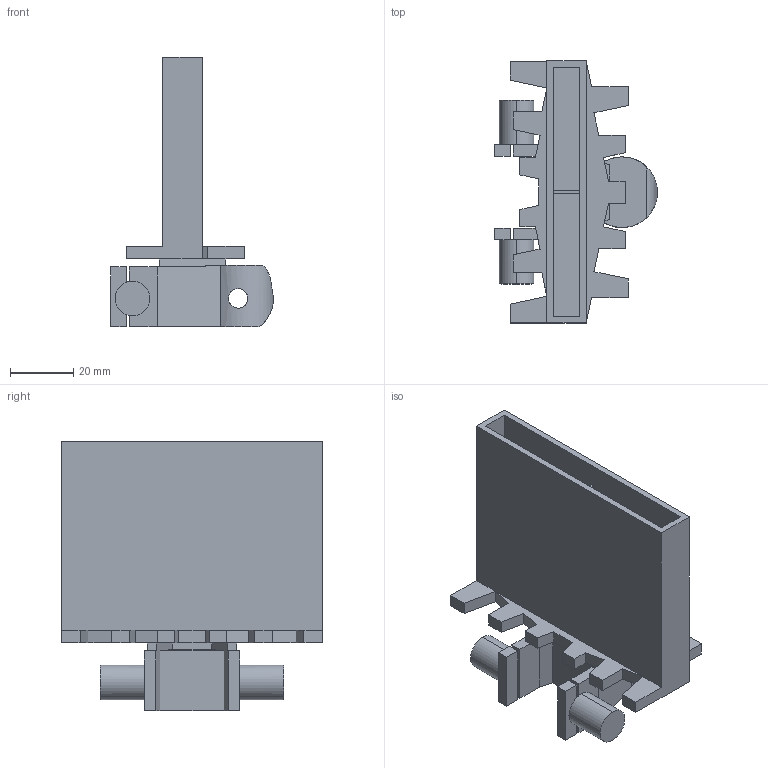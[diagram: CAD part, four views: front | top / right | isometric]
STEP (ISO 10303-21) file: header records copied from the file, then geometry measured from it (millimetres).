
FILE_DESCRIPTION (( 'STEP AP214' ), '1' );
FILE_NAME ('FMCT 5D60.step', '2017-04-04T13:34:27', ( '' ), ( '' ), 'SwSTEP 2.0', 'SolidWorks 2015', '' );
FILE_SCHEMA (( 'AUTOMOTIVE_DESIGN' ));
Length unit declared in the file: millimetre
Products named in the file (1): FMCT 5D60
Bounding box: 51.65 x 83 x 85.5 mm (x, y, z)
Volume: 48730.3 mm3; surface area: 35143 mm2
Topology: 1 solids, 1 shells, 119 faces, 329 edges, 213 vertices
Faces by surface type: plane 109, cylinder 10
Entity records: 3889 total; most frequent: CARTESIAN_POINT 826, ORIENTED_EDGE 658, DIRECTION 579, EDGE_CURVE 329, LINE 299, VECTOR 299, VERTEX_POINT 213, AXIS2_PLACEMENT_3D 140
